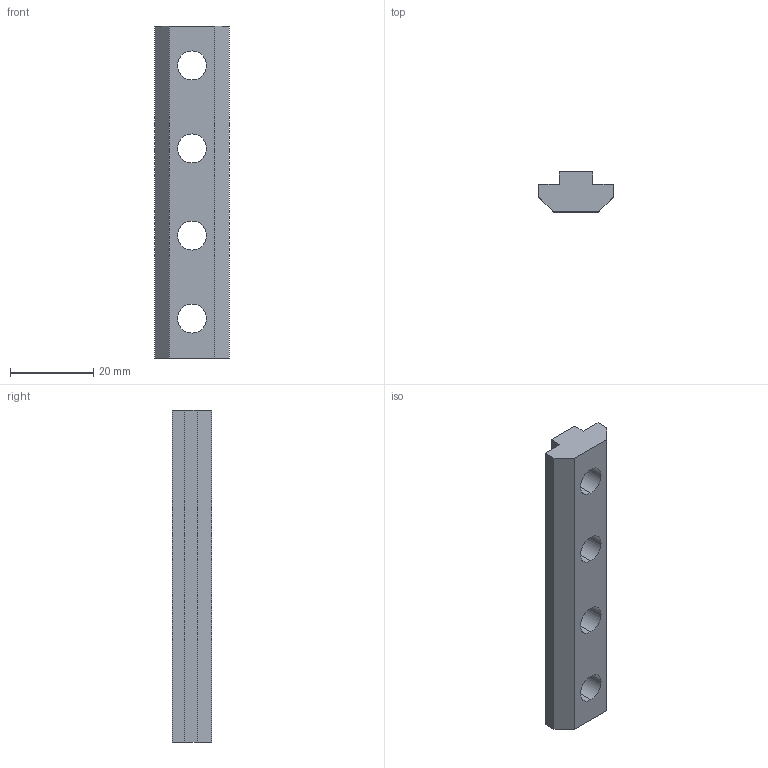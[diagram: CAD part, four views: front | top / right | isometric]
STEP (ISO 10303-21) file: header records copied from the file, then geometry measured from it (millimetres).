
FILE_DESCRIPTION (( 'STEP AP203' ), '1' );
FILE_NAME ('2028.80.AL.STEP', '2017-03-01T08:36:56', ( 'RosInstal-MKM' ), ( '' ), 'SwSTEP 2.0', 'SolidWorks 2014', '' );
FILE_SCHEMA (( 'CONFIG_CONTROL_DESIGN' ));
Length unit declared in the file: millimetre
Products named in the file (1): 2028.80.AL
Bounding box: 18 x 9.54 x 80 mm (x, y, z)
Volume: 8863.3 mm3; surface area: 4863.5 mm2
Topology: 1 solids, 1 shells, 20 faces, 54 edges, 36 vertices
Faces by surface type: plane 12, cylinder 8
Entity records: 727 total; most frequent: DIRECTION 112, CARTESIAN_POINT 111, ORIENTED_EDGE 108, EDGE_CURVE 54, LINE 38, VECTOR 38, AXIS2_PLACEMENT_3D 37, VERTEX_POINT 36
